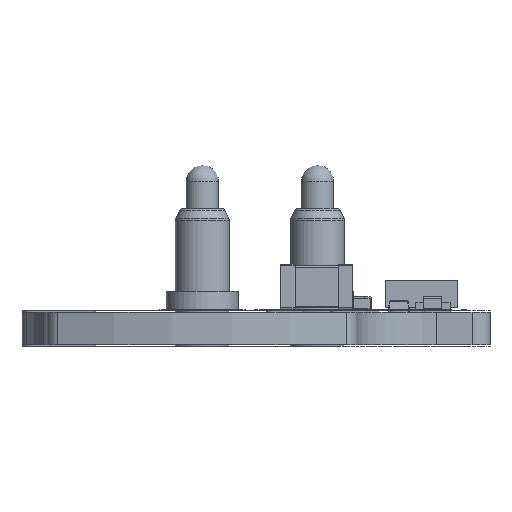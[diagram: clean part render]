
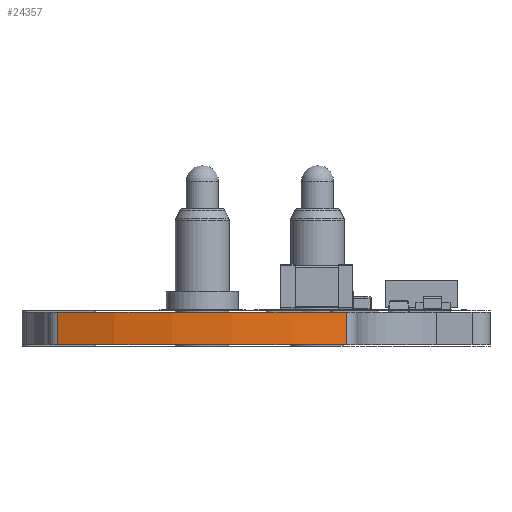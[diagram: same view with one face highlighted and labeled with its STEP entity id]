
A CAD part, front view. The second image highlights one B-rep face of the part: STEP entity #24357.
In plain terms, the highlighted cylindrical face has radius 10 mm (diameter 20 mm), a partial arc.
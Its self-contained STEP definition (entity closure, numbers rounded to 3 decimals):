
#23706 = VERTEX_POINT('',#23707);
#23707 = CARTESIAN_POINT('',(-5.506,-9.163,0.));
#23714 = EDGE_CURVE('',#23715,#23706,#23717,.T.);
#23715 = VERTEX_POINT('',#23716);
#23716 = CARTESIAN_POINT('',(2.506,-9.163,0.));
#23717 = CIRCLE('',#23718,10.);
#23718 = AXIS2_PLACEMENT_3D('',#23719,#23720,#23721);
#23719 = CARTESIAN_POINT('',(-1.5,0.,0.));
#23720 = DIRECTION('',(-0.,0.,-1.));
#23721 = DIRECTION('',(0.401,-0.916,-0.));
#23929 = VERTEX_POINT('',#23930);
#23930 = CARTESIAN_POINT('',(-5.506,-9.163,0.9));
#23937 = EDGE_CURVE('',#23938,#23929,#23940,.T.);
#23938 = VERTEX_POINT('',#23939);
#23939 = CARTESIAN_POINT('',(2.506,-9.163,0.9));
#23940 = CIRCLE('',#23941,10.);
#23941 = AXIS2_PLACEMENT_3D('',#23942,#23943,#23944);
#23942 = CARTESIAN_POINT('',(-1.5,0.,0.9));
#23943 = DIRECTION('',(-0.,0.,-1.));
#23944 = DIRECTION('',(0.401,-0.916,-0.));
#24327 = EDGE_CURVE('',#23706,#23929,#24328,.T.);
#24328 = LINE('',#24329,#24330);
#24329 = CARTESIAN_POINT('',(-5.506,-9.163,0.));
#24330 = VECTOR('',#24331,1.);
#24331 = DIRECTION('',(0.,0.,1.));
#24357 = ADVANCED_FACE('',(#24358),#24369,.T.);
#24358 = FACE_BOUND('',#24359,.T.);
#24359 = EDGE_LOOP('',(#24360,#24366,#24367,#24368));
#24360 = ORIENTED_EDGE('',*,*,#24361,.T.);
#24361 = EDGE_CURVE('',#23715,#23938,#24362,.T.);
#24362 = LINE('',#24363,#24364);
#24363 = CARTESIAN_POINT('',(2.506,-9.163,0.));
#24364 = VECTOR('',#24365,1.);
#24365 = DIRECTION('',(0.,0.,1.));
#24366 = ORIENTED_EDGE('',*,*,#23937,.T.);
#24367 = ORIENTED_EDGE('',*,*,#24327,.F.);
#24368 = ORIENTED_EDGE('',*,*,#23714,.F.);
#24369 = CYLINDRICAL_SURFACE('',#24370,10.);
#24370 = AXIS2_PLACEMENT_3D('',#24371,#24372,#24373);
#24371 = CARTESIAN_POINT('',(-1.5,0.,0.));
#24372 = DIRECTION('',(-0.,0.,-1.));
#24373 = DIRECTION('',(0.401,-0.916,-0.));
